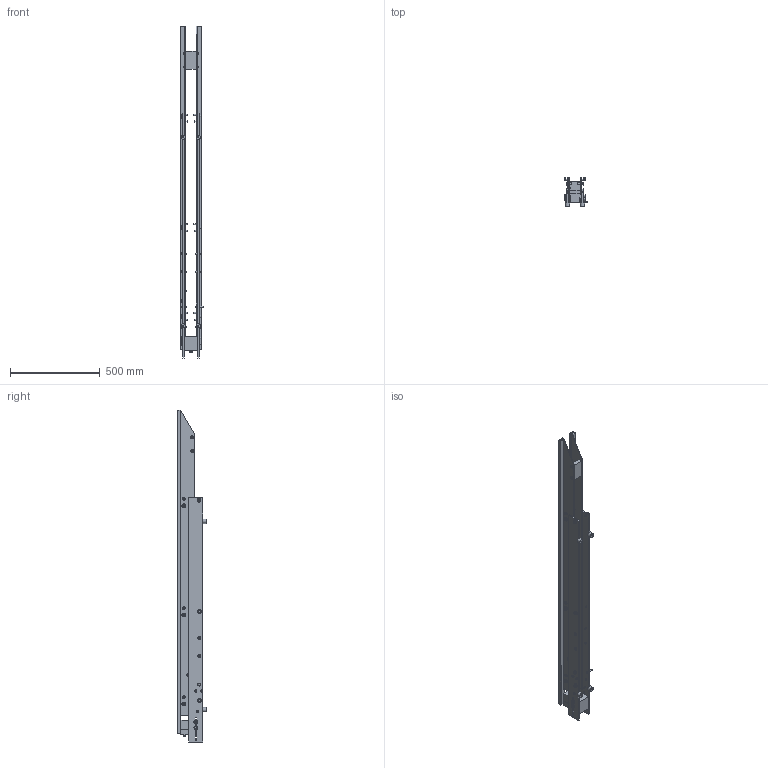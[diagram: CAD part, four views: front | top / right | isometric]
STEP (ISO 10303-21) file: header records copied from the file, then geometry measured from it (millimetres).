
FILE_DESCRIPTION( ( 'STEP AP214' ), ' ' );
FILE_NAME( 'C:/Users/pbuholc/AppData/Local/Temp/psolqas12173285910.stp', '2017-02-27T11:17:32', ( '' ), ( '' ), ' ', 'PARTsolutions', ' ' );
FILE_SCHEMA( ( 'AUTOMOTIVE_DESIGN { 1 0 10303 214 1 1 1 1 }' ) );
Length unit declared in the file: metre
Products named in the file (1): Defeature ausgeführt1
Bounding box: 132.49 x 162.5 x 1850 mm (x, y, z)
Volume: 4979126.8 mm3; surface area: 1616744.9 mm2
Topology: 1 solids, 1 shells, 503 faces, 1107 edges, 721 vertices
Faces by surface type: plane 251, cylinder 144, cone 85, sphere 14, torus 8, bspline 1
Full cylindrical faces by diameter (mm): 5 x4, 6 x8, 8 x22, 9.9 x1, 10 x6, 12 x6, 13 x18, 16 x16, 21 x16, 25 x4
Entity records: 12732 total; most frequent: CARTESIAN_POINT 2544, DIRECTION 2226, ORIENTED_EDGE 1688, AXIS2_PLACEMENT_3D 918, EDGE_CURVE 844, EDGE_LOOP 813, VERTEX_POINT 637, FACE_OUTER_BOUND 609
